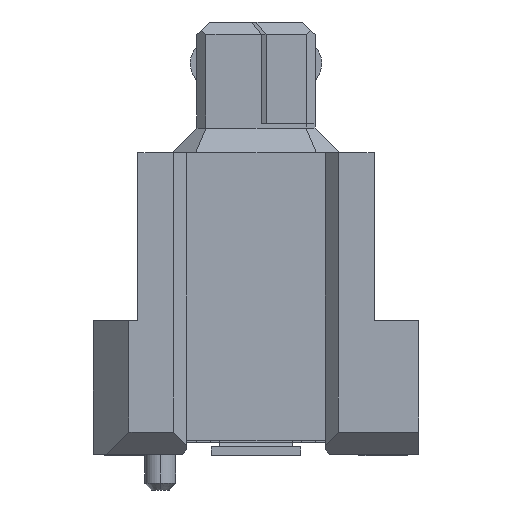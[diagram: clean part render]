
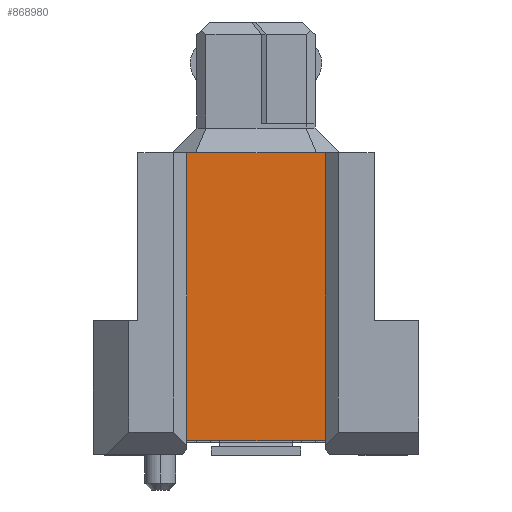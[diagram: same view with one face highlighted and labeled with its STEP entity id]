
A CAD part, left-side view. The second image highlights one B-rep face of the part: STEP entity #868980.
In plain terms, the highlighted planar face has unit normal (-1, 0, 0).
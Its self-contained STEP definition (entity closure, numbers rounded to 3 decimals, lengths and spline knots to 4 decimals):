
#58780=CARTESIAN_POINT('',(-5.0318,-5.0602,1.1));
#58790=VERTEX_POINT('',#58780);
#58820=CARTESIAN_POINT('',(-5.0318,-5.0602,0.));
#58830=DIRECTION('',(0.,0.,-1.));
#58840=VECTOR('',#58830,1.);
#58850=LINE('',#58820,#58840);
#58860=CARTESIAN_POINT('',(-5.0318,-5.0602,4.2));
#58870=VERTEX_POINT('',#58860);
#58880=EDGE_CURVE('',#58870,#58790,#58850,.T.);
#139300=CARTESIAN_POINT('',(-5.0318,1.4098,4.2));
#139310=VERTEX_POINT('',#139300);
#139340=CARTESIAN_POINT('',(-5.0318,1.4098,0.));
#139350=DIRECTION('',(0.,0.,1.));
#139360=VECTOR('',#139350,1.);
#139370=LINE('',#139340,#139360);
#139380=CARTESIAN_POINT('',(-5.0318,1.4098,1.1));
#139390=VERTEX_POINT('',#139380);
#139400=EDGE_CURVE('',#139390,#139310,#139370,.T.);
#867500=CARTESIAN_POINT('',(-5.0318,0.,4.2));
#867510=DIRECTION('',(0.,-1.,0.));
#867520=VECTOR('',#867510,1.);
#867530=LINE('',#867500,#867520);
#867540=EDGE_CURVE('',#139310,#58870,#867530,.T.);
#868820=CARTESIAN_POINT('',(-5.0318,-5.3602,5.3));
#868830=DIRECTION('',(-1.,0.,0.));
#868840=DIRECTION('',(0.,1.,0.));
#868850=AXIS2_PLACEMENT_3D('',#868820,#868830,#868840);
#868860=PLANE('',#868850);
#868870=CARTESIAN_POINT('',(-5.0318,0.,1.1));
#868880=DIRECTION('',(0.,-1.,0.));
#868890=VECTOR('',#868880,1.);
#868900=LINE('',#868870,#868890);
#868910=EDGE_CURVE('',#139390,#58790,#868900,.T.);
#868920=ORIENTED_EDGE('',*,*,#868910,.T.);
#868930=ORIENTED_EDGE('',*,*,#139400,.F.);
#868940=ORIENTED_EDGE('',*,*,#867540,.F.);
#868950=ORIENTED_EDGE('',*,*,#58880,.F.);
#868960=EDGE_LOOP('',(#868950,#868940,#868930,#868920));
#868970=FACE_OUTER_BOUND('',#868960,.T.);
#868980=ADVANCED_FACE('',(#868970),#868860,.T.);
